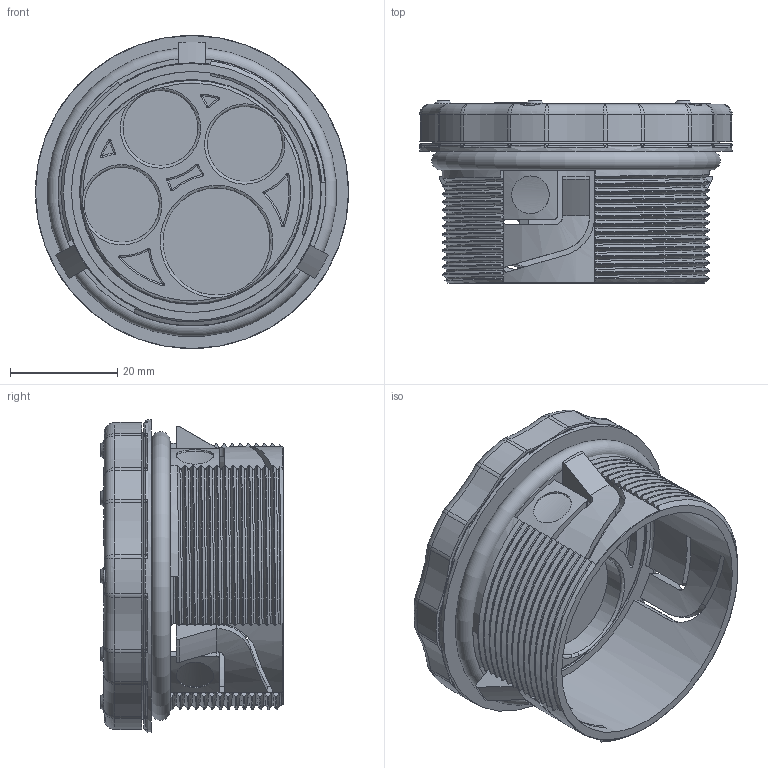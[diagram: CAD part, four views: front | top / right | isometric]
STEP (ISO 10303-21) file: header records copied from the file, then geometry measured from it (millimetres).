
FILE_DESCRIPTION(/* description */ (''),/* implementation_level */ '2;1');
FILE_NAME(/* name */ 'C:\SapWorkDir\Inventor\MP1\ConvertTempPath\87_16_121504_01_A_220622_KDP-R M50-04 ZSB.stp',/* time_stamp */ '2022-06-22T15:33:48+02:00',/* author */ ('BAUER'),/* organization */ (''),/* preprocessor_version */ 'ST-DEVELOPER v16.13',/* originating_system */ 'Autodesk Inventor 2018',/* authorisation */ '');
FILE_SCHEMA (('AUTOMOTIVE_DESIGN { 1 0 10303 214 3 1 1 }'));
Products named in the file (7): 121504; Gehäuse; 87.16.44.2; 87.16.44.3; 87.16.44.4; 121496; 87.16.44.6
Assembly tree (6 placements, depth 2):
  121504
    Gehäuse
    87.16.44.2
    87.16.44.3
    87.16.44.4
    121496
    87.16.44.6
Bounding box: 58.4 x 34 x 58.4 mm (x, y, z)
Volume: 28479.7 mm3; surface area: 33054.2 mm2
Topology: 6 solids, 6 shells, 1612 faces, 4232 edges, 2693 vertices
Faces by surface type: plane 532, bspline 402, cylinder 365, torus 194, sphere 90, cone 29
Full cylindrical faces by diameter (mm): 2.5 x1, 3 x1, 3.8 x11, 5 x1, 5.2 x1, 6 x1, 6.2 x5, 7 x3, 13 x3, 14 x3, 14.5 x3, 15.3 x3, 18.9 x1, 20 x1, 20.4 x1, 21.2 x1, 43.4 x1, 44.2 x2, 45 x1, 46 x2, 46.2 x1, 48.7 x1, 50 x1, 53.4 x1, 54.4 x1, 58.4 x1
Entity records: 56400 total; most frequent: CARTESIAN_POINT 18947, ORIENTED_EDGE 8132, DIRECTION 6974, EDGE_CURVE 4066, VERTEX_POINT 2653, AXIS2_PLACEMENT_3D 2614, EDGE_LOOP 1845, LINE 1746
